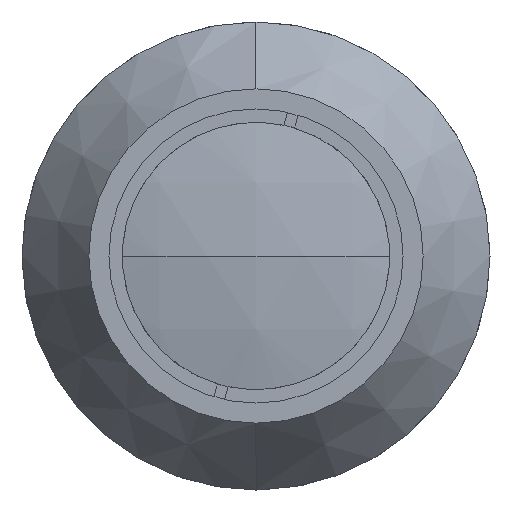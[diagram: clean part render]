
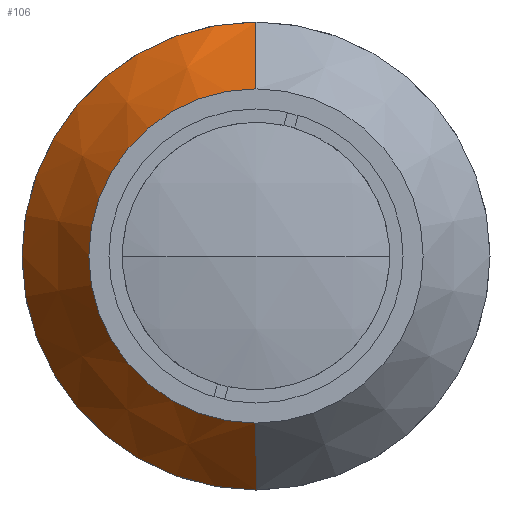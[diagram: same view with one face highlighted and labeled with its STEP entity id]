
A CAD part, left-side view. The second image highlights one B-rep face of the part: STEP entity #106.
In plain terms, the highlighted conical face has half-angle 35 degrees and reference radius 21 mm.
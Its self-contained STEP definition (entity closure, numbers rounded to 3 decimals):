
#106 = ADVANCED_FACE ( 'NONE', ( #1203 ), #1156, .T. ) ;
#196 = CARTESIAN_POINT ( 'NONE',  ( 23.569, 0., 0. ) ) ;
#481 = AXIS2_PLACEMENT_3D ( 'NONE', #2455, #2800, #3120 ) ;
#517 = DIRECTION ( 'NONE',  ( 0., 0., 1. ) ) ;
#614 = CARTESIAN_POINT ( 'NONE',  ( 23.569, 0., 21. ) ) ;
#707 = EDGE_LOOP ( 'NONE', ( #3203, #3207, #3249, #3256 ) ) ;
#715 = CIRCLE ( 'NONE', #3653, 15. ) ;
#895 = DIRECTION ( 'NONE',  ( -1., 0., 0. ) ) ;
#979 = EDGE_CURVE ( 'NONE', #2193, #1551, #1868, .T. ) ;
#1089 = EDGE_CURVE ( 'NONE', #1246, #3449, #715, .T. ) ;
#1143 = EDGE_CURVE ( 'NONE', #1246, #2193, #2667, .T. ) ;
#1156 = CONICAL_SURFACE ( 'NONE', #481, 21., 0.611 ) ;
#1203 = FACE_OUTER_BOUND ( 'NONE', #707, .T. ) ;
#1246 = VERTEX_POINT ( 'NONE', #2603 ) ;
#1249 = EDGE_CURVE ( 'NONE', #3449, #1551, #3048, .T. ) ;
#1551 = VERTEX_POINT ( 'NONE', #3504 ) ;
#1575 = CARTESIAN_POINT ( 'NONE',  ( 23.569, 0., 21. ) ) ;
#1705 = VECTOR ( 'NONE', #3150, 1000. ) ;
#1868 = CIRCLE ( 'NONE', #3755, 21. ) ;
#1979 = DIRECTION ( 'NONE',  ( 0.819, 0., -0.574 ) ) ;
#2193 = VERTEX_POINT ( 'NONE', #1575 ) ;
#2201 = VECTOR ( 'NONE', #1979, 1000. ) ;
#2418 = DIRECTION ( 'NONE',  ( -1., 0., 0. ) ) ;
#2455 = CARTESIAN_POINT ( 'NONE',  ( 23.569, 0., 0. ) ) ;
#2603 = CARTESIAN_POINT ( 'NONE',  ( 15., 0., 15. ) ) ;
#2667 = LINE ( 'NONE', #614, #1705 ) ;
#2800 = DIRECTION ( 'NONE',  ( 1., 0., 0. ) ) ;
#2831 = CARTESIAN_POINT ( 'NONE',  ( 15., 0., 0. ) ) ;
#2893 = CARTESIAN_POINT ( 'NONE',  ( 15., 0., -15. ) ) ;
#3048 = LINE ( 'NONE', #3257, #2201 ) ;
#3120 = DIRECTION ( 'NONE',  ( 0., 0., -1. ) ) ;
#3140 = DIRECTION ( 'NONE',  ( 0., 0., 1. ) ) ;
#3150 = DIRECTION ( 'NONE',  ( 0.819, 0., 0.574 ) ) ;
#3203 = ORIENTED_EDGE ( 'NONE', *, *, #1089, .F. ) ;
#3207 = ORIENTED_EDGE ( 'NONE', *, *, #1143, .T. ) ;
#3249 = ORIENTED_EDGE ( 'NONE', *, *, #979, .T. ) ;
#3256 = ORIENTED_EDGE ( 'NONE', *, *, #1249, .F. ) ;
#3257 = CARTESIAN_POINT ( 'NONE',  ( 23.569, 0., -21. ) ) ;
#3449 = VERTEX_POINT ( 'NONE', #2893 ) ;
#3504 = CARTESIAN_POINT ( 'NONE',  ( 23.569, 0., -21. ) ) ;
#3653 = AXIS2_PLACEMENT_3D ( 'NONE', #2831, #895, #3140 ) ;
#3755 = AXIS2_PLACEMENT_3D ( 'NONE', #196, #2418, #517 ) ;
